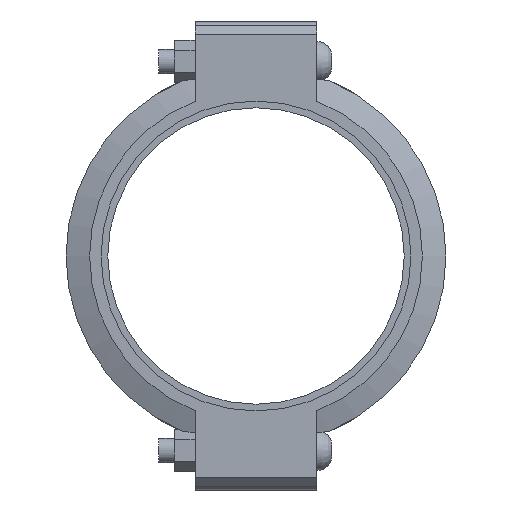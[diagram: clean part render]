
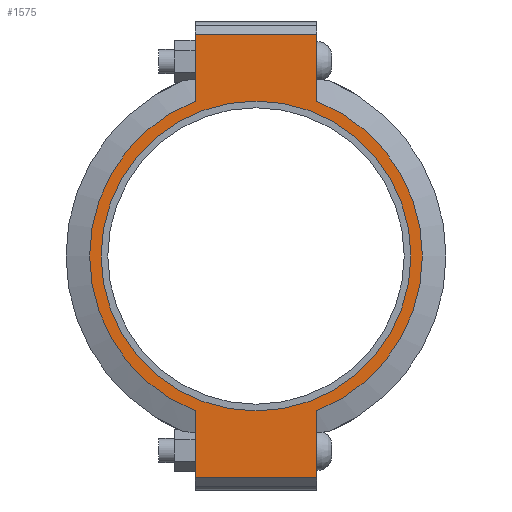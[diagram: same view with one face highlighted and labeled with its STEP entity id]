
A CAD part, left-side view. The second image highlights one B-rep face of the part: STEP entity #1575.
In plain terms, the highlighted planar face has unit normal (-1, 0, 0) as drawn and (0, 0, 1) by its records, which use the part's own axes.
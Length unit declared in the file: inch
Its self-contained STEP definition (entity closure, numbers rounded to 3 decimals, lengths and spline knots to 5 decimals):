
#202=LINE('',#2687,#289);
#213=LINE('',#2738,#300);
#219=LINE('',#2764,#306);
#221=LINE('',#2767,#308);
#222=LINE('',#2772,#309);
#223=LINE('',#2773,#310);
#289=VECTOR('',#2165,0.3937);
#300=VECTOR('',#2196,0.3937);
#306=VECTOR('',#2214,0.3937);
#308=VECTOR('',#2218,0.3937);
#309=VECTOR('',#2223,0.3937);
#310=VECTOR('',#2224,0.3937);
#368=FACE_BOUND('',#527,.T.);
#428=FACE_OUTER_BOUND('',#526,.T.);
#526=EDGE_LOOP('',(#1264,#1265,#1266,#1267,#1268,#1269,#1270,#1271));
#527=EDGE_LOOP('',(#1272));
#632=CIRCLE('',#1820,6.84375);
#633=CIRCLE('',#1821,6.84375);
#634=CIRCLE('',#1822,6.375);
#741=VERTEX_POINT('',#2684);
#742=VERTEX_POINT('',#2686);
#759=VERTEX_POINT('',#2733);
#760=VERTEX_POINT('',#2737);
#767=VERTEX_POINT('',#2759);
#768=VERTEX_POINT('',#2763);
#769=VERTEX_POINT('',#2769);
#770=VERTEX_POINT('',#2771);
#771=VERTEX_POINT('',#2775);
#911=EDGE_CURVE('',#742,#741,#202,.T.);
#932=EDGE_CURVE('',#760,#759,#213,.T.);
#943=EDGE_CURVE('',#768,#767,#219,.T.);
#945=EDGE_CURVE('',#768,#741,#221,.T.);
#946=EDGE_CURVE('',#767,#769,#632,.T.);
#947=EDGE_CURVE('',#769,#770,#222,.T.);
#948=EDGE_CURVE('',#760,#770,#223,.T.);
#949=EDGE_CURVE('',#759,#742,#633,.T.);
#950=EDGE_CURVE('',#771,#771,#634,.T.);
#1264=ORIENTED_EDGE('',*,*,#945,.F.);
#1265=ORIENTED_EDGE('',*,*,#943,.T.);
#1266=ORIENTED_EDGE('',*,*,#946,.T.);
#1267=ORIENTED_EDGE('',*,*,#947,.T.);
#1268=ORIENTED_EDGE('',*,*,#948,.F.);
#1269=ORIENTED_EDGE('',*,*,#932,.T.);
#1270=ORIENTED_EDGE('',*,*,#949,.T.);
#1271=ORIENTED_EDGE('',*,*,#911,.T.);
#1272=ORIENTED_EDGE('',*,*,#950,.T.);
#1427=PLANE('',#1819);
#1575=ADVANCED_FACE('',(#428,#368),#1427,.T.);
#1819=AXIS2_PLACEMENT_3D('',#2768,#2219,#2220);
#1820=AXIS2_PLACEMENT_3D('',#2770,#2221,#2222);
#1821=AXIS2_PLACEMENT_3D('',#2774,#2225,#2226);
#1822=AXIS2_PLACEMENT_3D('',#2776,#2227,#2228);
#2165=DIRECTION('',(-1.,0.,0.));
#2196=DIRECTION('',(-1.,0.,0.));
#2214=DIRECTION('',(1.,0.,0.));
#2218=DIRECTION('',(0.,1.,0.));
#2219=DIRECTION('center_axis',(0.,0.,1.));
#2220=DIRECTION('ref_axis',(1.,0.,0.));
#2221=DIRECTION('center_axis',(0.,0.,1.));
#2222=DIRECTION('ref_axis',(-1.,0.,0.));
#2223=DIRECTION('',(1.,0.,0.));
#2224=DIRECTION('',(0.,-1.,0.));
#2225=DIRECTION('center_axis',(0.,0.,1.));
#2226=DIRECTION('ref_axis',(-1.,0.,0.));
#2227=DIRECTION('center_axis',(0.,0.,-1.));
#2228=DIRECTION('ref_axis',(-1.,0.,0.));
#2684=CARTESIAN_POINT('',(-9.125,2.5,1.315));
#2686=CARTESIAN_POINT('',(-6.37079,2.5,1.315));
#2687=CARTESIAN_POINT('',(9.625,2.5,1.315));
#2733=CARTESIAN_POINT('',(6.37079,2.5,1.315));
#2737=CARTESIAN_POINT('',(9.125,2.5,1.315));
#2738=CARTESIAN_POINT('',(9.625,2.5,1.315));
#2759=CARTESIAN_POINT('',(-6.37079,-2.5,1.315));
#2763=CARTESIAN_POINT('',(-9.125,-2.5,1.315));
#2764=CARTESIAN_POINT('',(-9.625,-2.5,1.315));
#2767=CARTESIAN_POINT('',(-9.125,1.25,1.315));
#2768=CARTESIAN_POINT('Origin',(0.,0.,
1.315));
#2769=CARTESIAN_POINT('',(6.37079,-2.5,1.315));
#2770=CARTESIAN_POINT('Origin',(0.,0.,1.315));
#2771=CARTESIAN_POINT('',(9.125,-2.5,1.315));
#2772=CARTESIAN_POINT('',(-9.625,-2.5,1.315));
#2773=CARTESIAN_POINT('',(9.125,-1.25,1.315));
#2774=CARTESIAN_POINT('Origin',(0.,0.,1.315));
#2775=CARTESIAN_POINT('',(6.375,0.,1.315));
#2776=CARTESIAN_POINT('Origin',(0.,0.,1.315));
